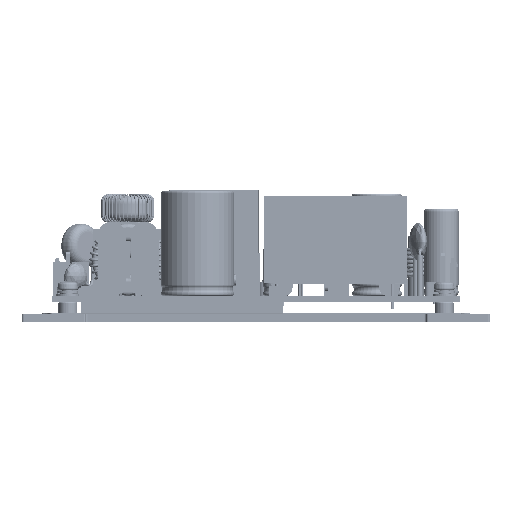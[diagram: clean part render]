
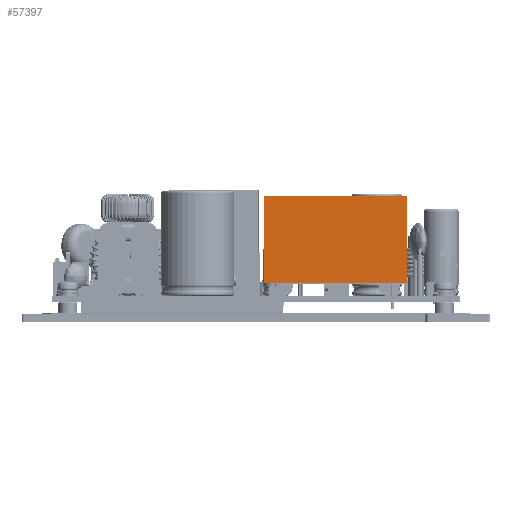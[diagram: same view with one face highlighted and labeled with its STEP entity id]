
A CAD part, front view. The second image highlights one B-rep face of the part: STEP entity #57397.
In plain terms, the highlighted planar face has unit normal (0, -1, 0) as drawn and (0, 0, 1) by its records, which use the part's own axes.
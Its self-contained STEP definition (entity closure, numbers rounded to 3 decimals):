
#14944 = FACE_OUTER_BOUND ( 'NONE', #92436, .T. ) ;
#18769 = CARTESIAN_POINT ( 'NONE',  ( -17.8, 4.3, 17.85 ) ) ;
#18800 = EDGE_CURVE ( 'NONE', #160157, #187401, #176793, .T. ) ;
#24023 = CARTESIAN_POINT ( 'NONE',  ( 17.8, 76.217, 17.85 ) ) ;
#26706 = DIRECTION ( 'NONE',  ( 1., 0., 0. ) ) ;
#31635 = ORIENTED_EDGE ( 'NONE', *, *, #60565, .T. ) ;
#32075 = VERTEX_POINT ( 'NONE', #149035 ) ;
#43209 = CARTESIAN_POINT ( 'NONE',  ( -17.8, 25.8, 17.85 ) ) ;
#49910 = ORIENTED_EDGE ( 'NONE', *, *, #136700, .T. ) ;
#57397 = ADVANCED_FACE ( 'NONE', ( #14944 ), #180017, .F. ) ;
#60565 = EDGE_CURVE ( 'NONE', #109729, #32075, #97360, .T. ) ;
#67519 = ORIENTED_EDGE ( 'NONE', *, *, #99973, .F. ) ;
#69885 = CARTESIAN_POINT ( 'NONE',  ( -17.8, 76.217, 17.85 ) ) ;
#80758 = CARTESIAN_POINT ( 'NONE',  ( 17.8, 4.3, 17.85 ) ) ;
#92436 = EDGE_LOOP ( 'NONE', ( #153108, #49910, #31635, #67519 ) ) ;
#96275 = CARTESIAN_POINT ( 'NONE',  ( 17.8, 25.8, 17.85 ) ) ;
#97360 = LINE ( 'NONE', #80758, #168040 ) ;
#99201 = LINE ( 'NONE', #69885, #148782 ) ;
#99973 = EDGE_CURVE ( 'NONE', #187401, #32075, #157863, .T. ) ;
#100620 = DIRECTION ( 'NONE',  ( 1., 0., 0. ) ) ;
#103828 = DIRECTION ( 'NONE',  ( -1., 0., 0. ) ) ;
#109729 = VERTEX_POINT ( 'NONE', #18769 ) ;
#115314 = CARTESIAN_POINT ( 'NONE',  ( 17.8, 25.8, 17.85 ) ) ;
#121442 = DIRECTION ( 'NONE',  ( 0., 0., -1. ) ) ;
#128563 = DIRECTION ( 'NONE',  ( 0., -1., 0. ) ) ;
#136123 = VECTOR ( 'NONE', #100620, 1000. ) ;
#136700 = EDGE_CURVE ( 'NONE', #160157, #109729, #99201, .T. ) ;
#141968 = AXIS2_PLACEMENT_3D ( 'NONE', #181000, #121442, #103828 ) ;
#143233 = DIRECTION ( 'NONE',  ( 0., -1., 0. ) ) ;
#148782 = VECTOR ( 'NONE', #128563, 1000. ) ;
#149035 = CARTESIAN_POINT ( 'NONE',  ( 17.8, 4.3, 17.85 ) ) ;
#153108 = ORIENTED_EDGE ( 'NONE', *, *, #18800, .F. ) ;
#157863 = LINE ( 'NONE', #24023, #193096 ) ;
#160157 = VERTEX_POINT ( 'NONE', #43209 ) ;
#168040 = VECTOR ( 'NONE', #26706, 1000. ) ;
#176793 = LINE ( 'NONE', #115314, #136123 ) ;
#180017 = PLANE ( 'NONE',  #141968 ) ;
#181000 = CARTESIAN_POINT ( 'NONE',  ( 17.8, 76.217, 17.85 ) ) ;
#187401 = VERTEX_POINT ( 'NONE', #96275 ) ;
#193096 = VECTOR ( 'NONE', #143233, 1000. ) ;
